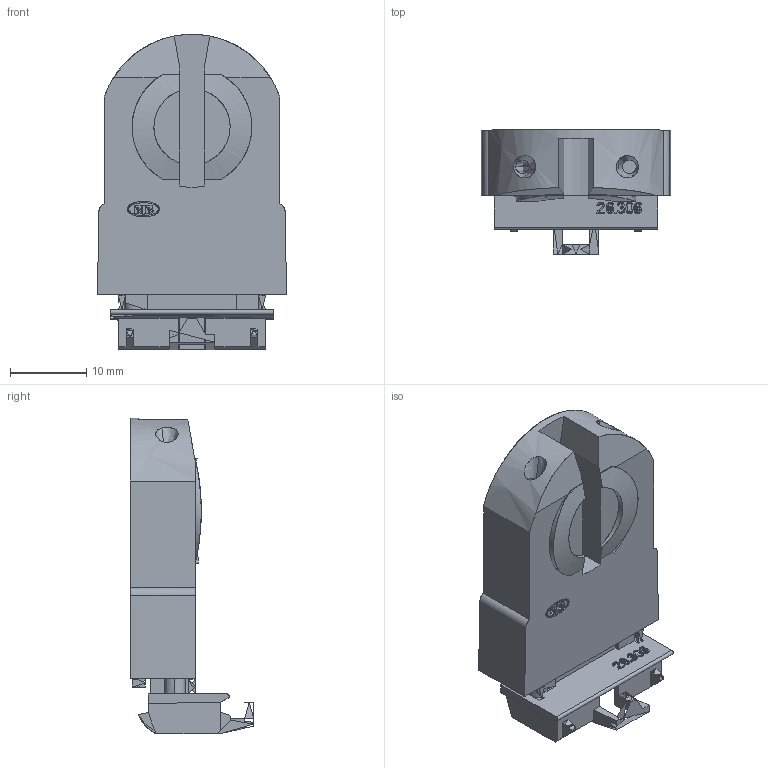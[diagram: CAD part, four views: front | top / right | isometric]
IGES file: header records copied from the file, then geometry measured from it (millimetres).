
Global section: file name: C:\Programme\CoreTechnologie\in\00TYW09Y05.igs; native system: CT CoreTechnologie 3D Evolution; preprocessor: 2005; author: assmuth; date: 060614.140326; units: millimetre
Bounding box: 24.8 x 16.21 x 41.33 mm (x, y, z)
Surface area: 5167.8 mm2 (no closed solid volume)
Topology: 0 solids, 0 shells, 341 faces, 1750 edges, 1717 vertices
Faces by surface type: bspline 341
